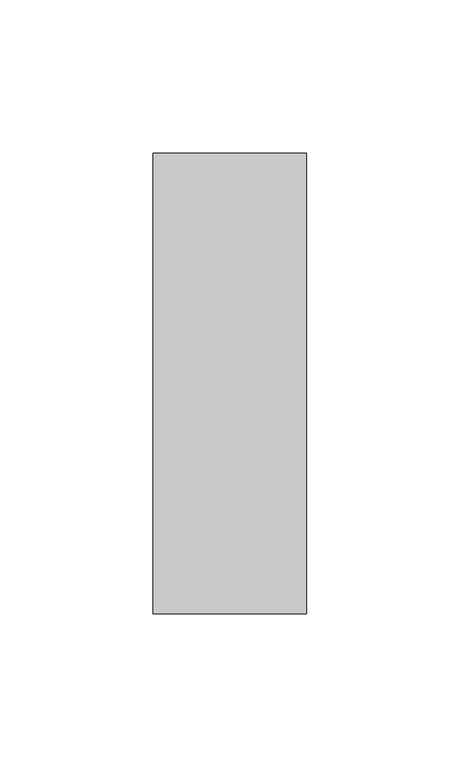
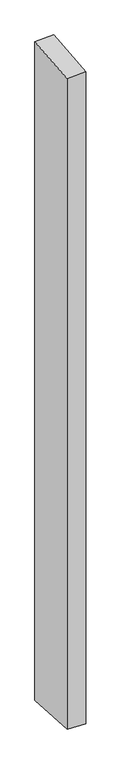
"""IFC4 building model written with IfcOpenShell, lengths in millimetres: member geometry, Прямоугольный импост : 50 x 150 мм."""

from ifc_helpers import new_model, si_unit, origin, place, context, project, spatial, faceted_brep, source, transform, mapped, element, save


def member_a3d41d18(model_context):
    return source(origin(), model_context, "Body", "Brep", [
        faceted_brep([(-25.0, 75.0, 5.6333778), (25.0, 75.0, 7.7035791), (25.0, 75.0, -1858.0305118), (-25.0, 75.0, -1856.4732077), (-25.0, -75.0, -7.7035791), (-25.0, -75.0, -1847.8017856), (25.0, -75.0, -5.6333778), (25.0, -75.0, -1849.3590897)], [[[0, 1, 2, 3]], [[4, 0, 3, 5]], [[6, 4, 5, 7]], [[1, 6, 7, 2]], [[1, 0, 4, 6]], [[2, 7, 5, 3]]]),
    ])


if __name__ == "__main__":
    model = new_model("IFC4")
    model_context = context("Model", 3, world=origin())
    ifc_project = project(units=[si_unit("LENGTHUNIT", "METRE", prefix="MILLI")], contexts=[model_context])
    site = spatial("IfcSite", under=ifc_project)
    building = spatial("IfcBuilding", under=site)
    placement = place(None, origin())
    member_shape = member_a3d41d18(model_context)
    element("IfcMember", 1, ObjectType="Прямоугольный импост : 50 x 150 мм", at=placement, inside=building, context=model_context, shape_type="MappedRepresentation", body=[
        mapped(member_shape, transform((0.0, 0.0, 0.0), x_axis=(1.0, 0.0, 0.0), y_axis=(0.0, 1.0, 0.0), z_axis=(0.0, 0.0, 1.0))),
    ])
    save(model, "model.ifc")
